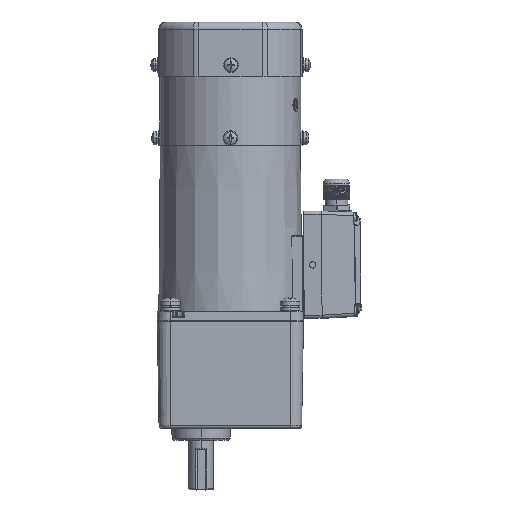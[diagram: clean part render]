
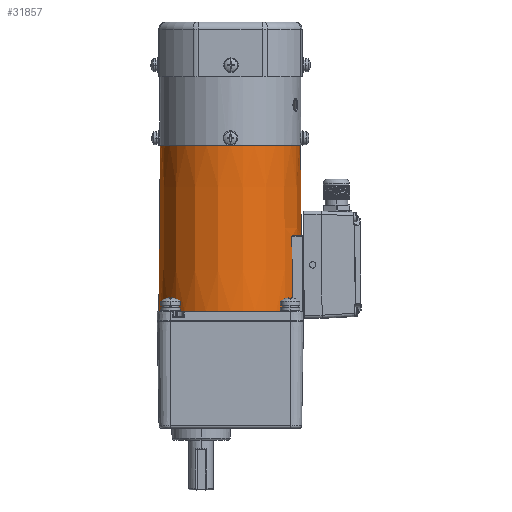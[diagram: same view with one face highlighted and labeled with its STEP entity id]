
A CAD part, front view. The second image highlights one B-rep face of the part: STEP entity #31857.
In plain terms, the highlighted conical face has half-angle 0.5 degrees and reference radius 43.555 mm.
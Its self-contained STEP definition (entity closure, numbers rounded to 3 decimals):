
#195 = VECTOR ( 'NONE', #47347, 1000. ) ;
#565 = CARTESIAN_POINT ( 'NONE',  ( 38.038, -21.297, 53.5 ) ) ;
#973 = DIRECTION ( 'NONE',  ( 1., 0., 0. ) ) ;
#1431 = AXIS2_PLACEMENT_3D ( 'NONE', #9503, #27894, #973 ) ;
#1444 = DIRECTION ( 'NONE',  ( -1., 0., 0. ) ) ;
#1859 = CARTESIAN_POINT ( 'NONE',  ( 43.594, 0., 53.5 ) ) ;
#3583 = CARTESIAN_POINT ( 'NONE',  ( 37.95, -21.454, 53.469 ) ) ;
#4493 = B_SPLINE_CURVE_WITH_KNOTS ( 'NONE', 3,
 ( #42114, #20003, #51460, #42392, #55152, #12104, #46652, #3583, #20859, #15776 ),
 .UNSPECIFIED., .F., .F.,
 ( 4, 2, 2, 2, 4 ),
 ( 0., 0.25, 0.375, 0.5, 1. ),
 .UNSPECIFIED. ) ;
#6115 = CARTESIAN_POINT ( 'NONE',  ( -43.11, 0., 109. ) ) ;
#7224 = VERTEX_POINT ( 'NONE', #9258 ) ;
#9020 = B_SPLINE_CURVE_WITH_KNOTS ( 'NONE', 3,
 ( #20457, #33221, #15366, #49918 ),
 .UNSPECIFIED., .F., .F.,
 ( 4, 4 ),
 ( 0., 1. ),
 .UNSPECIFIED. ) ;
#9258 = CARTESIAN_POINT ( 'NONE',  ( 38.105, -22., 7. ) ) ;
#9503 = CARTESIAN_POINT ( 'NONE',  ( 0., 0., 58. ) ) ;
#9522 = ORIENTED_EDGE ( 'NONE', *, *, #18494, .T. ) ;
#9683 = CARTESIAN_POINT ( 'NONE',  ( 0., 0., 109. ) ) ;
#9751 = AXIS2_PLACEMENT_3D ( 'NONE', #54979, #30325, #16426 ) ;
#10079 = DIRECTION ( 'NONE',  ( -0.009, 0., -1. ) ) ;
#12104 = CARTESIAN_POINT ( 'NONE',  ( 37.903, -21.538, 53.379 ) ) ;
#13109 = DIRECTION ( 'NONE',  ( -1., 0., 0. ) ) ;
#13768 = ORIENTED_EDGE ( 'NONE', *, *, #54037, .T. ) ;
#14612 = EDGE_CURVE ( 'NONE', #21354, #40852, #4493, .T. ) ;
#15366 = CARTESIAN_POINT ( 'NONE',  ( 37.95, -21.731, 37.802 ) ) ;
#15776 = CARTESIAN_POINT ( 'NONE',  ( 38.038, -21.297, 53.5 ) ) ;
#16426 = DIRECTION ( 'NONE',  ( 0.873, -0.489, 0. ) ) ;
#17932 = VERTEX_POINT ( 'NONE', #33991 ) ;
#18175 = VECTOR ( 'NONE', #10079, 1000. ) ;
#18494 = EDGE_CURVE ( 'NONE', #25465, #33456, #27926, .T. ) ;
#20003 = CARTESIAN_POINT ( 'NONE',  ( 37.872, -21.596, 53.243 ) ) ;
#20457 = CARTESIAN_POINT ( 'NONE',  ( 38.105, -22., 7. ) ) ;
#20859 = CARTESIAN_POINT ( 'NONE',  ( 37.991, -21.382, 53.5 ) ) ;
#21354 = VERTEX_POINT ( 'NONE', #28563 ) ;
#21506 = CIRCLE ( 'NONE', #9751, 43.594 ) ;
#24029 = CONICAL_SURFACE ( 'NONE', #1431, 43.555, 0.009 ) ;
#25465 = VERTEX_POINT ( 'NONE', #30065 ) ;
#25544 = CARTESIAN_POINT ( 'NONE',  ( 43.11, 0., 109. ) ) ;
#25924 = AXIS2_PLACEMENT_3D ( 'NONE', #38318, #34078, #13109 ) ;
#26635 = ORIENTED_EDGE ( 'NONE', *, *, #43567, .F. ) ;
#26947 = ORIENTED_EDGE ( 'NONE', *, *, #50581, .T. ) ;
#27894 = DIRECTION ( 'NONE',  ( 0., 0., -1. ) ) ;
#27926 = LINE ( 'NONE', #6115, #18175 ) ;
#28160 = CIRCLE ( 'NONE', #40811, 43.11 ) ;
#28533 = ORIENTED_EDGE ( 'NONE', *, *, #36009, .T. ) ;
#28563 = CARTESIAN_POINT ( 'NONE',  ( 37.872, -21.597, 53.203 ) ) ;
#30065 = CARTESIAN_POINT ( 'NONE',  ( -43.11, 0., 109. ) ) ;
#30069 = ORIENTED_EDGE ( 'NONE', *, *, #14612, .T. ) ;
#30209 = EDGE_LOOP ( 'NONE', ( #45787, #26635, #9522, #13768, #26947, #30069, #28533 ) ) ;
#30325 = DIRECTION ( 'NONE',  ( 0., 0., 1. ) ) ;
#31857 = ADVANCED_FACE ( 'NONE', ( #49136 ), #24029, .T. ) ;
#32270 = CIRCLE ( 'NONE', #25924, 44. ) ;
#33015 = VERTEX_POINT ( 'NONE', #1859 ) ;
#33221 = CARTESIAN_POINT ( 'NONE',  ( 38.028, -21.866, 22.401 ) ) ;
#33456 = VERTEX_POINT ( 'NONE', #42137 ) ;
#33991 = CARTESIAN_POINT ( 'NONE',  ( 43.11, 0., 109. ) ) ;
#34078 = DIRECTION ( 'NONE',  ( 0., 0., 1. ) ) ;
#35444 = DIRECTION ( 'NONE',  ( 0., 0., 1. ) ) ;
#36009 = EDGE_CURVE ( 'NONE', #40852, #33015, #21506, .T. ) ;
#38318 = CARTESIAN_POINT ( 'NONE',  ( 0., 0., 7. ) ) ;
#40811 = AXIS2_PLACEMENT_3D ( 'NONE', #9683, #35444, #1444 ) ;
#40852 = VERTEX_POINT ( 'NONE', #565 ) ;
#42114 = CARTESIAN_POINT ( 'NONE',  ( 37.872, -21.597, 53.203 ) ) ;
#42137 = CARTESIAN_POINT ( 'NONE',  ( -44., 0., 7. ) ) ;
#42320 = EDGE_CURVE ( 'NONE', #17932, #33015, #55564, .T. ) ;
#42392 = CARTESIAN_POINT ( 'NONE',  ( 37.887, -21.568, 53.332 ) ) ;
#43567 = EDGE_CURVE ( 'NONE', #25465, #17932, #28160, .T. ) ;
#45787 = ORIENTED_EDGE ( 'NONE', *, *, #42320, .F. ) ;
#46652 = CARTESIAN_POINT ( 'NONE',  ( 37.909, -21.528, 53.393 ) ) ;
#47347 = DIRECTION ( 'NONE',  ( 0.009, 0., -1. ) ) ;
#49136 = FACE_OUTER_BOUND ( 'NONE', #30209, .T. ) ;
#49918 = CARTESIAN_POINT ( 'NONE',  ( 37.872, -21.597, 53.203 ) ) ;
#50581 = EDGE_CURVE ( 'NONE', #7224, #21354, #9020, .T. ) ;
#51460 = CARTESIAN_POINT ( 'NONE',  ( 37.876, -21.589, 53.28 ) ) ;
#54037 = EDGE_CURVE ( 'NONE', #33456, #7224, #32270, .T. ) ;
#54979 = CARTESIAN_POINT ( 'NONE',  ( 0., 0., 53.5 ) ) ;
#55152 = CARTESIAN_POINT ( 'NONE',  ( 37.892, -21.559, 53.348 ) ) ;
#55564 = LINE ( 'NONE', #25544, #195 ) ;
